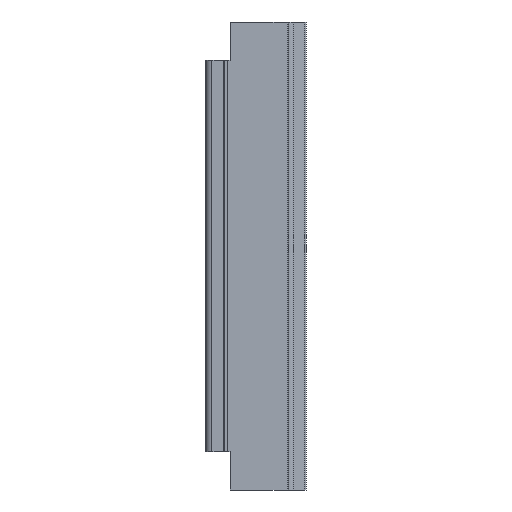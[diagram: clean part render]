
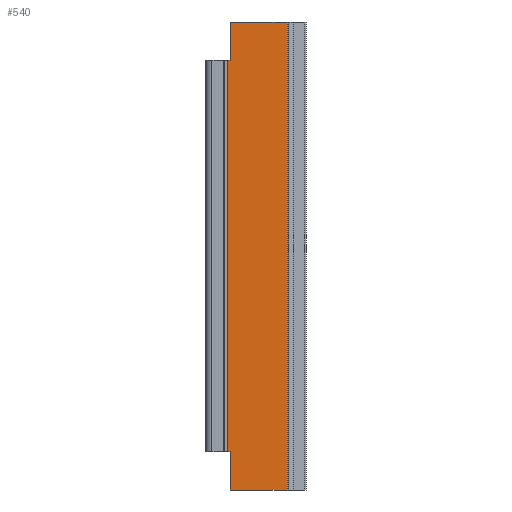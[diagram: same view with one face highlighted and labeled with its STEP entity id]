
A CAD part, left-side view. The second image highlights one B-rep face of the part: STEP entity #540.
In plain terms, the highlighted planar face has unit normal (-1, 0, 0).
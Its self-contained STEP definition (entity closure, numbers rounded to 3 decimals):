
#130 = ORIENTED_EDGE ( 'NONE', *, *, #1026, .T. ) ;
#131 = ORIENTED_EDGE ( 'NONE', *, *, #1125, .T. ) ;
#132 = ORIENTED_EDGE ( 'NONE', *, *, #1131, .T. ) ;
#133 = ORIENTED_EDGE ( 'NONE', *, *, #1147, .T. ) ;
#134 = ORIENTED_EDGE ( 'NONE', *, *, #1173, .T. ) ;
#135 = ORIENTED_EDGE ( 'NONE', *, *, #1058, .T. ) ;
#136 = ORIENTED_EDGE ( 'NONE', *, *, #1163, .T. ) ;
#137 = ORIENTED_EDGE ( 'NONE', *, *, #1066, .F. ) ;
#194 = VECTOR ( 'NONE', #1276, 1000. ) ;
#199 = LINE ( 'NONE', #1275, #194 ) ;
#279 = CARTESIAN_POINT ( 'NONE',  ( -2.8, -14.555, 411.5 ) ) ;
#280 = DIRECTION ( 'NONE',  ( 0., 1., 0. ) ) ;
#292 = CARTESIAN_POINT ( 'NONE',  ( -2.8, -14.928, 448. ) ) ;
#293 = DIRECTION ( 'NONE',  ( 0., 0., -1. ) ) ;
#325 = CARTESIAN_POINT ( 'NONE',  ( -2.8, -14.555, 36.5 ) ) ;
#326 = DIRECTION ( 'NONE',  ( 0., -1., 0. ) ) ;
#355 = CARTESIAN_POINT ( 'NONE',  ( -2.8, -72.063, 448. ) ) ;
#356 = DIRECTION ( 'NONE',  ( 0., 0., 1. ) ) ;
#430 = CARTESIAN_POINT ( 'NONE',  ( -2.8, -72.063, 448. ) ) ;
#435 = CARTESIAN_POINT ( 'NONE',  ( -2.8, -17.7, 0. ) ) ;
#441 = CARTESIAN_POINT ( 'NONE',  ( -2.8, -17.7, 36.5 ) ) ;
#447 = CARTESIAN_POINT ( 'NONE',  ( -2.8, -14.928, 36.5 ) ) ;
#448 = CARTESIAN_POINT ( 'NONE',  ( -2.8, -14.928, 411.5 ) ) ;
#449 = CARTESIAN_POINT ( 'NONE',  ( -2.8, -17.7, 411.5 ) ) ;
#465 = CARTESIAN_POINT ( 'NONE',  ( -2.8, -17.7, 448. ) ) ;
#473 = CARTESIAN_POINT ( 'NONE',  ( -2.8, -72.063, 0. ) ) ;
#490 = CARTESIAN_POINT ( 'NONE',  ( -2.8, -17.7, 448. ) ) ;
#493 = DIRECTION ( 'NONE',  ( 0., 0., -1. ) ) ;
#508 = CARTESIAN_POINT ( 'NONE',  ( -2.8, -14.555, 0. ) ) ;
#515 = DIRECTION ( 'NONE',  ( 0., -1., 0. ) ) ;
#522 = CARTESIAN_POINT ( 'NONE',  ( -2.8, -14.555, 448. ) ) ;
#528 = DIRECTION ( 'NONE',  ( 0., -1., 0. ) ) ;
#540 = ADVANCED_FACE ( 'NONE', ( #913 ), #665, .F. ) ;
#600 = VERTEX_POINT ( 'NONE', #430 ) ;
#605 = VERTEX_POINT ( 'NONE', #435 ) ;
#611 = VERTEX_POINT ( 'NONE', #441 ) ;
#617 = VERTEX_POINT ( 'NONE', #447 ) ;
#618 = VERTEX_POINT ( 'NONE', #448 ) ;
#619 = VERTEX_POINT ( 'NONE', #449 ) ;
#635 = VERTEX_POINT ( 'NONE', #465 ) ;
#643 = VERTEX_POINT ( 'NONE', #473 ) ;
#665 = PLANE ( 'NONE',  #1103 ) ;
#668 = CARTESIAN_POINT ( 'NONE',  ( -2.8, -14.555, 448. ) ) ;
#677 = DIRECTION ( 'NONE',  ( 1., 0., 0. ) ) ;
#678 = DIRECTION ( 'NONE',  ( 0., 1., 0. ) ) ;
#703 = VECTOR ( 'NONE', #356, 1000. ) ;
#704 = LINE ( 'NONE', #355, #703 ) ;
#734 = VECTOR ( 'NONE', #326, 1000. ) ;
#735 = LINE ( 'NONE', #325, #734 ) ;
#761 = VECTOR ( 'NONE', #293, 1000. ) ;
#762 = LINE ( 'NONE', #292, #761 ) ;
#777 = LINE ( 'NONE', #279, #781 ) ;
#781 = VECTOR ( 'NONE', #280, 1000. ) ;
#823 = LINE ( 'NONE', #522, #826 ) ;
#826 = VECTOR ( 'NONE', #528, 1000. ) ;
#835 = LINE ( 'NONE', #508, #846 ) ;
#846 = VECTOR ( 'NONE', #515, 1000. ) ;
#852 = VECTOR ( 'NONE', #493, 1000. ) ;
#857 = LINE ( 'NONE', #490, #852 ) ;
#913 = FACE_OUTER_BOUND ( 'NONE', #1000, .T. ) ;
#1000 = EDGE_LOOP ( 'NONE', ( #130, #131, #132, #133, #134, #135, #136, #137 ) ) ;
#1026 = EDGE_CURVE ( 'NONE', #635, #619, #857, .T. ) ;
#1058 = EDGE_CURVE ( 'NONE', #605, #643, #835, .T. ) ;
#1066 = EDGE_CURVE ( 'NONE', #635, #600, #823, .T. ) ;
#1103 = AXIS2_PLACEMENT_3D ( 'NONE', #668, #677, #678 ) ;
#1125 = EDGE_CURVE ( 'NONE', #619, #618, #777, .T. ) ;
#1131 = EDGE_CURVE ( 'NONE', #618, #617, #762, .T. ) ;
#1147 = EDGE_CURVE ( 'NONE', #617, #611, #735, .T. ) ;
#1163 = EDGE_CURVE ( 'NONE', #643, #600, #704, .T. ) ;
#1173 = EDGE_CURVE ( 'NONE', #611, #605, #199, .T. ) ;
#1275 = CARTESIAN_POINT ( 'NONE',  ( -2.8, -17.7, 448. ) ) ;
#1276 = DIRECTION ( 'NONE',  ( 0., 0., -1. ) ) ;
